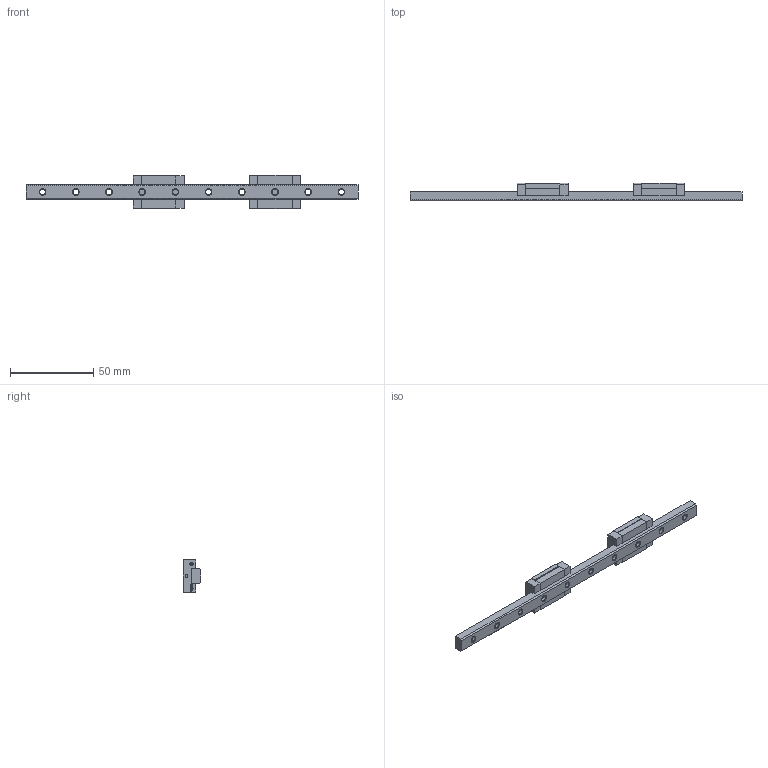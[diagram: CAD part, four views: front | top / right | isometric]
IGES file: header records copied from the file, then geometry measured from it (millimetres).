
Start section: SolidWorks IGES file using analytic representation for surfaces
Global section: file name: H:\直得科技CAD圖檔\3D目錄檔\MR-M Series\9MN.IGS; native system: SolidWorks 2005 by SolidWorks Corporation; preprocessor: SolidWorks 2005 by SolidWorks Corporation; author: cpc; date: 050331.121833; units: millimetre
Bounding box: 200 x 10.8 x 20 mm (x, y, z)
Surface area: 9432.2 mm2 (no closed solid volume)
Topology: 0 solids, 0 shells, 473 faces, 6844 edges, 6820 vertices
Faces by surface type: bspline 321, revolution 152
